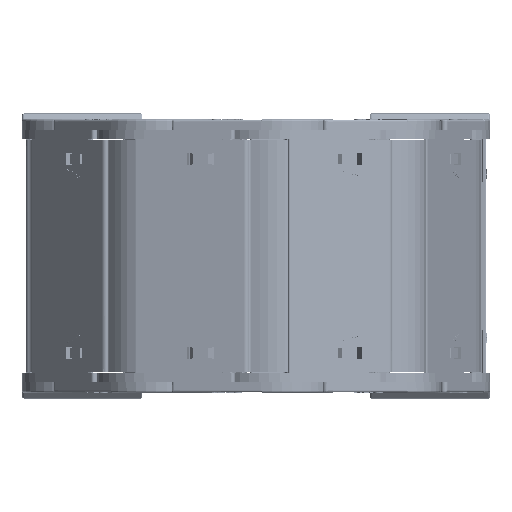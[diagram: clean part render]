
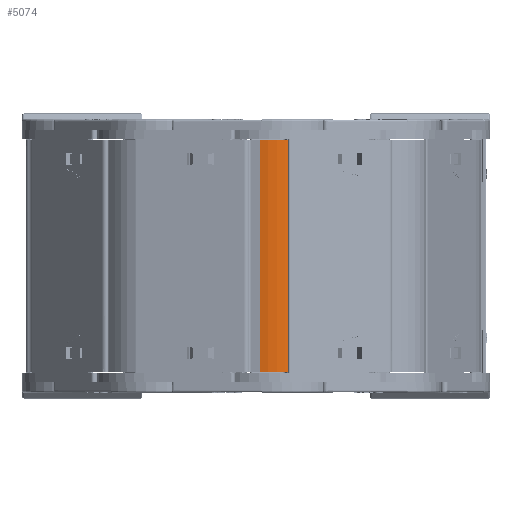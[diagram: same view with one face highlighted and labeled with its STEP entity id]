
A CAD part, left-side view. The second image highlights one B-rep face of the part: STEP entity #5074.
In plain terms, the highlighted cylindrical face has radius 29.2 mm (diameter 58.4 mm), a partial arc.
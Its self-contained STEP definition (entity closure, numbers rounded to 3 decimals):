
#308 = AXIS2_PLACEMENT_3D ( 'NONE', #29868, #38300, #51301 ) ;
#2097 = AXIS2_PLACEMENT_3D ( 'NONE', #14439, #44489, #18752 ) ;
#5074 = ADVANCED_FACE ( 'NONE', ( #19981 ), #30096, .T. ) ;
#9906 = DIRECTION ( 'NONE',  ( 0., 0., 1. ) ) ;
#10033 = CIRCLE ( 'NONE', #2097, 29.2 ) ;
#11848 = DIRECTION ( 'NONE',  ( 0., 0., 1. ) ) ;
#12935 = CARTESIAN_POINT ( 'NONE',  ( 25.609, 31.503, 62.8 ) ) ;
#14439 = CARTESIAN_POINT ( 'NONE',  ( 25.609, 31.503, -66.3 ) ) ;
#14838 = VERTEX_POINT ( 'NONE', #50985 ) ;
#15389 = VERTEX_POINT ( 'NONE', #43146 ) ;
#17256 = DIRECTION ( 'NONE',  ( 1., 0., 0. ) ) ;
#17856 = EDGE_CURVE ( 'NONE', #41003, #15389, #52946, .T. ) ;
#18752 = DIRECTION ( 'NONE',  ( 1., 0., 0. ) ) ;
#19705 = AXIS2_PLACEMENT_3D ( 'NONE', #12935, #42985, #17256 ) ;
#19981 = FACE_OUTER_BOUND ( 'NONE', #30271, .T. ) ;
#21327 = VECTOR ( 'NONE', #11848, 1000. ) ;
#23944 = VERTEX_POINT ( 'NONE', #24618 ) ;
#24618 = CARTESIAN_POINT ( 'NONE',  ( 43.645, 8.539, 62.8 ) ) ;
#25431 = EDGE_CURVE ( 'NONE', #23944, #15389, #41142, .T. ) ;
#27753 = VECTOR ( 'NONE', #9906, 1000. ) ;
#29108 = LINE ( 'NONE', #31362, #27753 ) ;
#29868 = CARTESIAN_POINT ( 'NONE',  ( 25.609, 31.503, -103.312 ) ) ;
#30096 = CYLINDRICAL_SURFACE ( 'NONE', #308, 29.2 ) ;
#30271 = EDGE_LOOP ( 'NONE', ( #55641, #30779, #47554, #33441 ) ) ;
#30779 = ORIENTED_EDGE ( 'NONE', *, *, #25431, .T. ) ;
#31362 = CARTESIAN_POINT ( 'NONE',  ( 43.645, 8.539, -103.312 ) ) ;
#32186 = EDGE_CURVE ( 'NONE', #41003, #14838, #10033, .T. ) ;
#33441 = ORIENTED_EDGE ( 'NONE', *, *, #32186, .T. ) ;
#37561 = CARTESIAN_POINT ( 'NONE',  ( 25.609, 2.303, -103.312 ) ) ;
#38300 = DIRECTION ( 'NONE',  ( 0., 0., 1. ) ) ;
#41003 = VERTEX_POINT ( 'NONE', #53974 ) ;
#41142 = CIRCLE ( 'NONE', #19705, 29.2 ) ;
#42985 = DIRECTION ( 'NONE',  ( 0., 0., -1. ) ) ;
#43146 = CARTESIAN_POINT ( 'NONE',  ( 25.609, 2.303, 62.8 ) ) ;
#44489 = DIRECTION ( 'NONE',  ( 0., 0., 1. ) ) ;
#47554 = ORIENTED_EDGE ( 'NONE', *, *, #17856, .F. ) ;
#47970 = EDGE_CURVE ( 'NONE', #14838, #23944, #29108, .T. ) ;
#50985 = CARTESIAN_POINT ( 'NONE',  ( 43.645, 8.539, -66.3 ) ) ;
#51301 = DIRECTION ( 'NONE',  ( 1., 0., 0. ) ) ;
#52946 = LINE ( 'NONE', #37561, #21327 ) ;
#53974 = CARTESIAN_POINT ( 'NONE',  ( 25.609, 2.303, -66.3 ) ) ;
#55641 = ORIENTED_EDGE ( 'NONE', *, *, #47970, .T. ) ;
